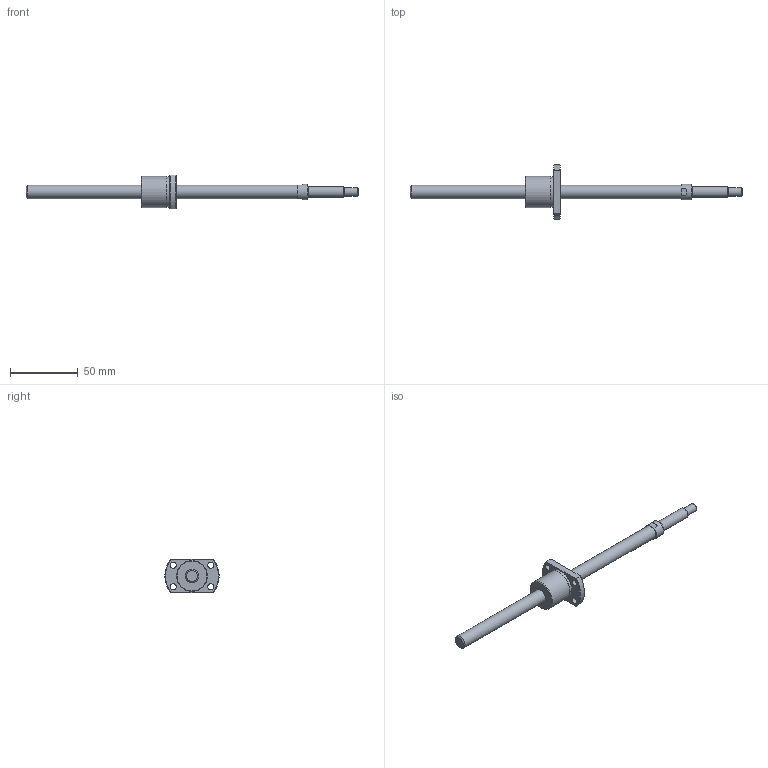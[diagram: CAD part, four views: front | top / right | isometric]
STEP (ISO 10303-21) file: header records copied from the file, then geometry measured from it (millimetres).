
FILE_DESCRIPTION(/* description */ ('STEP AP214'),/* implementation_level */ '2;1');
FILE_NAME(/* name */ 'SRT1005-196R245C7A0X(85Processing)',/* time_stamp */ '2026-08-06T15:09:13+02:00',/* author */ ('License CC BY-ND 4.0'),/* organization */ ('CADENAS'),/* preprocessor_version */ 'ST-DEVELOPER v20',/* originating_system */ 'PARTsolutions',/* authorisation */ ' ');
FILE_SCHEMA (('AUTOMOTIVE_DESIGN {1 0 10303 214 3 1 1}'));
Length unit declared in the file: millimetre
Products named in the file (3): SRT1005-196R245C7A0X(85Processing); SRT1005-196R270ACt7Processing61Shaft; SRT1005Nut
Assembly tree (2 placements, depth 2):
  SRT1005-196R245C7A0X(85Processing)
    SRT1005-196R270ACt7Processing61Shaft
    SRT1005Nut
Bounding box: 245 x 40 x 25 mm (x, y, z)
Volume: 29108.7 mm3; surface area: 12344.4 mm2
Topology: 2 solids, 2 shells, 39 faces, 88 edges, 57 vertices
Faces by surface type: plane 16, cylinder 13, cone 9, torus 1
Full cylindrical faces by diameter (mm): 4.5 x4, 6 x1, 8 x1, 10 x2, 11.5 x1, 22.7 x1, 23 x1
Entity records: 1075 total; most frequent: CARTESIAN_POINT 184, DIRECTION 182, ORIENTED_EDGE 132, AXIS2_PLACEMENT_3D 82, EDGE_LOOP 70, FACE_BOUND 70, EDGE_CURVE 66, VERTEX_POINT 52
